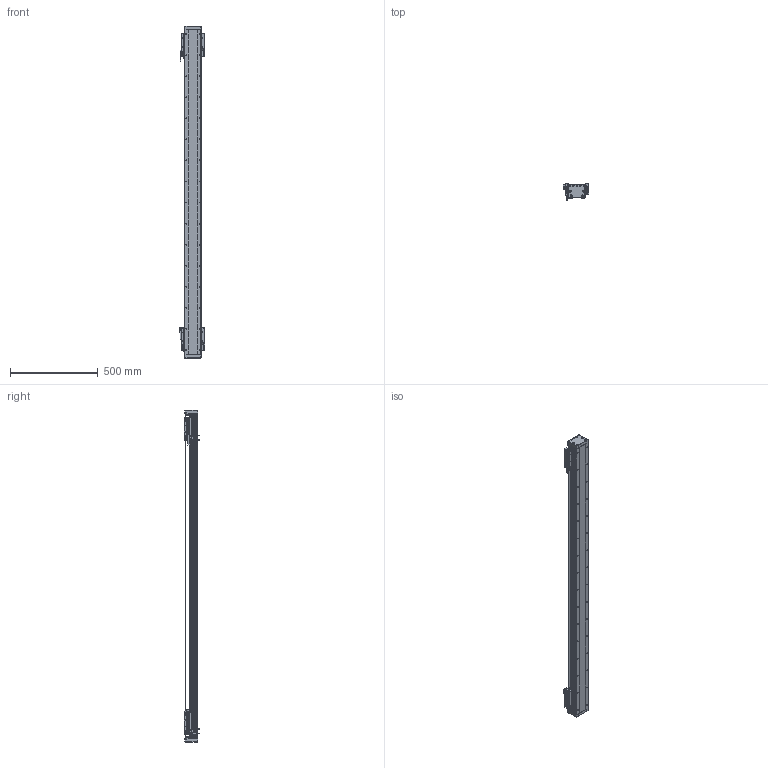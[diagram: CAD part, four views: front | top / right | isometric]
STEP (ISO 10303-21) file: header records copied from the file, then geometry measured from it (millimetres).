
FILE_DESCRIPTION (( 'STEP AP203' ), '1' );
FILE_NAME ('DA-B95-2-B15-T1520-C010-0.2 直线电机.STEP', '2023-05-06T06:31:58', ( '微软用户' ), ( '微软中国' ), 'SwSTEP 2.0', 'SolidWorks 2019', '' );
FILE_SCHEMA (( 'CONFIG_CONTROL_DESIGN' ));
Length unit declared in the file: millimetre
Products named in the file (34): 葩璃 DA95-B15-DP-A-00 菜えA^66245-BU95-V 幗紩賑怢; 复件 DKW-HXJ-JY-00 缓冲橡胶^DA-A95-B15-T-C010-0.2-N 直线电机; 复件 DKW-GYP-ZJ-00 中间光电感应片^DA-A95-B15-T-C010-0.2-N 直线电机; IU-BU95-L-00 菁釱_L1860; 复件 六角薄螺母 M3^DA-A95-B15-T-C010-0.2-N 直线电机_GB_FASTENER_NUT_STNAB M3-C; 复件 DA95-DB-00  挡板^66245-BU95-V 滚珠滑台; 66245-BU95-V 幗紩賑怢; 复件 DA95-B15-YB-A-00 压板A^66245-BU95-V 滚珠滑台; 复件 DA95-HK-GT-00 滑块钢轨^66245-BU95-V-00 一体化滑动台板; 复件 复件 18252-0001-002-00 钢带垫块^DA-A95-B15-T-C010-0.2-N 直线电机; 葩璃 PM-Y45^DA-A95-B15-T-C010-0.2-N 眻盄萇儂; 葩璃 BKM015-W060-C1-TP-DA-0.2^DA-A95-B15-T-C010-0.2-N 眻盄萇儂; 复件 DA95-B15-YB-B-00 压板B^66245-BU95-V 滚珠滑台; LMDK-2-R001-V5-L02-C1-F00，0.2M 读数头^DA-A95-B15-T-C010-0.2-N 直线电机_DMA-010-0.2; DA95-HXJ-00 缓冲橡胶^DA-A95-B15-T-C010-0.2-N 直线电机; DA-B95-2-B15-T1520-C010-0.2 眻盄萇儂; 复件 DA95-B15 钢带盖板^DA-A95-B15-T-C010-0.2-N 直线电机; PM-T45 光电开关^DA-A95-B15-T-C010-0.2-N 直线电机; 复件 66245-BU95-HT-V-01 滑动台板^66245-BU95-V-00 一体化滑动台板; IU-BU95-L 菁釱絳寢; B15 XD-U-02L ｴﾅﾕ､ｳﾟ^DA-A95-B15-T-C010-0.2-N ﾖｱﾏﾟｵ扈銈XD-U-02L; 复件 DKW-KGZ-ZJ-00 中间光电开关支架^DA-A95-B15-T-C010-0.2-N 直线电机; 复件 DA95-DK-00 挡块^66245-BU95-V 滚珠滑台; 复件 纯铜油杯 6x6mm^66245-BU95-V 滚珠滑台; 葩璃 DA95-GT-T-00^IU-BU95-L 菁釱絳寢_DA95; 复件 DA95-MFP-01 密封片^66245-BU95-V 滚珠滑台; 66245-BU95-V-00 珨极趙賑雄怢啣; 复件 复件 18252-0001-004-00 钢带端盖^DA-A95-B15-T-C010-0.2-N 直线电机; 复件 复件 18252-0001-003-00 钢带拉块^DA-A95-B15-T-C010-0.2-N 直线电机; 葩璃 BKMA01-W060-TRL^DA-A95-B15-T-C010-0.2-N 眻盄萇儂; 葩璃 DA95-B15-DP--B-00 菜えB^66245-BU95-V 幗紩賑怢; DA-A95-GYP-00 光电感应片^DA-A95-B15-T-C010-0.2-N 直线电机
Assembly tree (80 placements, depth 4):
  DA-B95-2-B15-T1520-C010-0.2 眻盄萇儂
    IU-BU95-L 菁釱絳寢
      IU-BU95-L-00 菁釱_L1860
      葩璃 DA95-GT-T-00^IU-BU95-L 菁釱絳寢_DA95  x2
    66245-BU95-V 幗紩賑怢
      66245-BU95-V-00 珨极趙賑雄怢啣
        复件 66245-BU95-HT-V-01 滑动台板^66245-BU95-V-00 一体化滑动台板
        复件 DA95-HK-GT-00 滑块钢轨^66245-BU95-V-00 一体化滑动台板  x2
      葩璃 DA95-B15-DP-A-00 菜えA^66245-BU95-V 幗紩賑怢
      复件 DA95-B15-YB-A-00 压板A^66245-BU95-V 滚珠滑台
      复件 DA95-B15-YB-B-00 压板B^66245-BU95-V 滚珠滑台
      复件 DA95-DB-00  挡板^66245-BU95-V 滚珠滑台  x4
      复件 DA95-DK-00 挡块^66245-BU95-V 滚珠滑台  x2
      复件 DA95-MFP-01 密封片^66245-BU95-V 滚珠滑台  x4
      复件 纯铜油杯 6x6mm^66245-BU95-V 滚珠滑台  x2
      葩璃 DA95-B15-DP--B-00 菜えB^66245-BU95-V 幗紩賑怢
    66245-BU95-V 幗紩賑怢
      66245-BU95-V-00 珨极趙賑雄怢啣
        复件 66245-BU95-HT-V-01 滑动台板^66245-BU95-V-00 一体化滑动台板
        复件 DA95-HK-GT-00 滑块钢轨^66245-BU95-V-00 一体化滑动台板  x2
      葩璃 DA95-B15-DP-A-00 菜えA^66245-BU95-V 幗紩賑怢
      复件 DA95-B15-YB-A-00 压板A^66245-BU95-V 滚珠滑台
      复件 DA95-B15-YB-B-00 压板B^66245-BU95-V 滚珠滑台
      复件 DA95-DB-00  挡板^66245-BU95-V 滚珠滑台  x4
      复件 DA95-DK-00 挡块^66245-BU95-V 滚珠滑台  x2
      复件 DA95-MFP-01 密封片^66245-BU95-V 滚珠滑台  x4
      复件 纯铜油杯 6x6mm^66245-BU95-V 滚珠滑台  x2
      葩璃 DA95-B15-DP--B-00 菜えB^66245-BU95-V 幗紩賑怢
    DA-A95-GYP-00 光电感应片^DA-A95-B15-T-C010-0.2-N 直线电机  x2
    LMDK-2-R001-V5-L02-C1-F00，0.2M 读数头^DA-A95-B15-T-C010-0.2-N 直线电机_DMA-010-0.2  x2
    复件 DKW-KGZ-ZJ-00 中间光电开关支架^DA-A95-B15-T-C010-0.2-N 直线电机
    葩璃 PM-Y45^DA-A95-B15-T-C010-0.2-N 眻盄萇儂
    复件 DKW-GYP-ZJ-00 中间光电感应片^DA-A95-B15-T-C010-0.2-N 直线电机
    葩璃 BKM015-W060-C1-TP-DA-0.2^DA-A95-B15-T-C010-0.2-N 眻盄萇儂  x2
    复件 DKW-HXJ-JY-00 缓冲橡胶^DA-A95-B15-T-C010-0.2-N 直线电机  x2
    PM-T45 光电开关^DA-A95-B15-T-C010-0.2-N 直线电机  x4
    B15 XD-U-02L ｴﾅﾕ､ｳﾟ^DA-A95-B15-T-C010-0.2-N ﾖｱﾏﾟｵ扈銈XD-U-02L
    复件 复件 18252-0001-003-00 钢带拉块^DA-A95-B15-T-C010-0.2-N 直线电机  x2
    复件 复件 18252-0001-002-00 钢带垫块^DA-A95-B15-T-C010-0.2-N 直线电机  x2
    复件 复件 18252-0001-004-00 钢带端盖^DA-A95-B15-T-C010-0.2-N 直线电机  x2
    复件 DA95-B15 钢带盖板^DA-A95-B15-T-C010-0.2-N 直线电机
    DA95-HXJ-00 缓冲橡胶^DA-A95-B15-T-C010-0.2-N 直线电机  x4
    葩璃 BKMA01-W060-TRL^DA-A95-B15-T-C010-0.2-N 眻盄萇儂
    复件 六角薄螺母 M3^DA-A95-B15-T-C010-0.2-N 直线电机_GB_FASTENER_NUT_STNAB M3-C  x6
Bounding box: 145.4 x 90.2 x 1896 mm (x, y, z)
Volume: 6483662.8 mm3; surface area: 2119376.1 mm2
Topology: 75 solids, 93 shells, 3924 faces, 10804 edges, 6815 vertices
Faces by surface type: cylinder 1941, plane 1451, cone 464, torus 64, sphere 4
Entity records: 87930 total; most frequent: CARTESIAN_POINT 21844, ORIENTED_EDGE 12966, DIRECTION 12806, EDGE_CURVE 6483, AXIS2_PLACEMENT_3D 4841, VERTEX_POINT 4217, LINE 3124, VECTOR 3124
